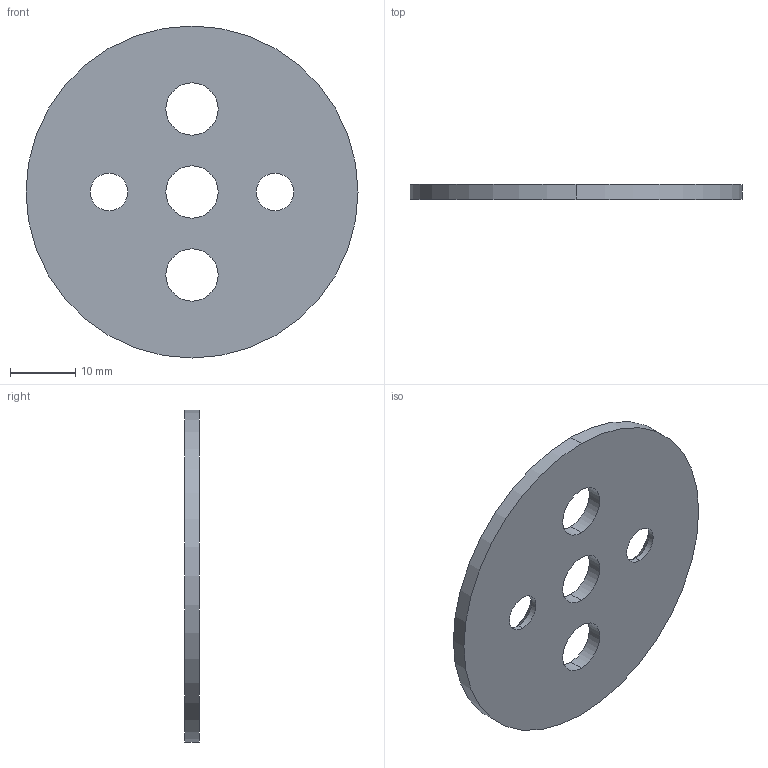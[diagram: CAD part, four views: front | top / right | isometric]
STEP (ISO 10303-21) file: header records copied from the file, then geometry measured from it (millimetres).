
FILE_DESCRIPTION (( 'STEP AP203' ), '1' );
FILE_NAME ('VL-SWERVE-01-SKID RevA.STEP', '2007-08-25T21:58:08', ( 'Innovation First, Inc.' ), ( 'Innovation First, Inc.' ), 'SwSTEP 2.0', 'SolidWorks 2006052', '' );
FILE_SCHEMA (( 'CONFIG_CONTROL_DESIGN' ));
Length unit declared in the file: inch
Products named in the file (1): VL-SWERVE-01-SKID RevA
Bounding box: 50.8 x 2.29 x 50.8 mm (x, y, z)
Volume: 4132.8 mm3; surface area: 4244.9 mm2
Topology: 1 solids, 1 shells, 18 faces, 44 edges, 28 vertices
Faces by surface type: cylinder 12, cone 4, plane 2
Entity records: 643 total; most frequent: DIRECTION 110, CARTESIAN_POINT 91, ORIENTED_EDGE 88, AXIS2_PLACEMENT_3D 47, EDGE_CURVE 44, VERTEX_POINT 28, EDGE_LOOP 28, CIRCLE 28
